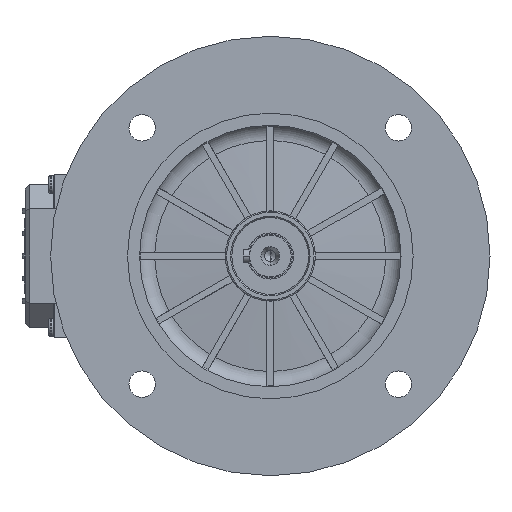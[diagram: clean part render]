
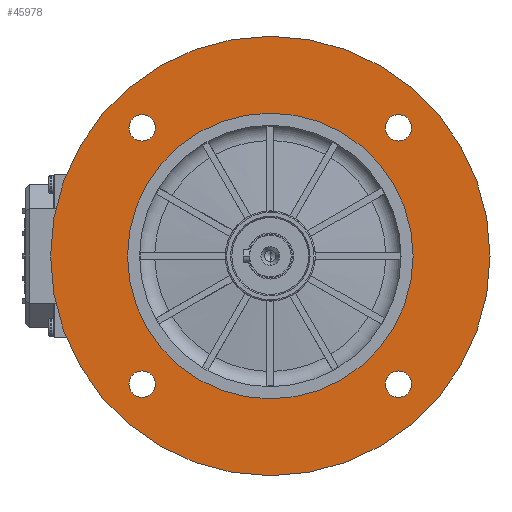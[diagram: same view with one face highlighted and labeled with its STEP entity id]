
A CAD part, left-side view. The second image highlights one B-rep face of the part: STEP entity #45978.
In plain terms, the highlighted planar face has unit normal (-1, 0, 0) as drawn and (0, -1, 0) by its records, which use the part's own axes.
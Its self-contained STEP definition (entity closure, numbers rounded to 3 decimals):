
#25 = DIRECTION ( 'NONE',  ( 0., 0., -1. ) ) ;
#837 = DIRECTION ( 'NONE',  ( 0., 1., 0. ) ) ;
#1151 = CARTESIAN_POINT ( 'NONE',  ( -58.336, 3.5, -64.336 ) ) ;
#1259 = AXIS2_PLACEMENT_3D ( 'NONE', #22783, #70670, #29673 ) ;
#1703 = CARTESIAN_POINT ( 'NONE',  ( 58.336, 3.5, -52.336 ) ) ;
#2065 = AXIS2_PLACEMENT_3D ( 'NONE', #36270, #84141, #43146 ) ;
#2133 = CARTESIAN_POINT ( 'NONE',  ( -58.336, 3.5, 58.336 ) ) ;
#4145 = CARTESIAN_POINT ( 'NONE',  ( 58.336, 3.5, 58.336 ) ) ;
#4805 = CARTESIAN_POINT ( 'NONE',  ( 0., 3.5, 0. ) ) ;
#4893 = FACE_BOUND ( 'NONE', #79310, .T. ) ;
#6450 = PLANE ( 'NONE',  #64745 ) ;
#6516 = EDGE_LOOP ( 'NONE', ( #60377, #44035 ) ) ;
#7221 = EDGE_CURVE ( 'NONE', #15991, #41112, #72976, .T. ) ;
#8645 = EDGE_LOOP ( 'NONE', ( #69086, #29573 ) ) ;
#9012 = DIRECTION ( 'NONE',  ( 0., 0., 1. ) ) ;
#9927 = AXIS2_PLACEMENT_3D ( 'NONE', #4145, #52040, #11019 ) ;
#11019 = DIRECTION ( 'NONE',  ( 0., 0., 1. ) ) ;
#11125 = VERTEX_POINT ( 'NONE', #13523 ) ;
#11329 = CARTESIAN_POINT ( 'NONE',  ( 58.336, 3.5, 64.336 ) ) ;
#11690 = DIRECTION ( 'NONE',  ( 0., 0., -1. ) ) ;
#12608 = VERTEX_POINT ( 'NONE', #63596 ) ;
#12787 = VERTEX_POINT ( 'NONE', #79387 ) ;
#13057 = AXIS2_PLACEMENT_3D ( 'NONE', #18122, #66004, #24958 ) ;
#13523 = CARTESIAN_POINT ( 'NONE',  ( 58.336, 3.5, -64.336 ) ) ;
#15235 = DIRECTION ( 'NONE',  ( 0., 1., 0. ) ) ;
#15991 = VERTEX_POINT ( 'NONE', #45939 ) ;
#17703 = EDGE_CURVE ( 'NONE', #83716, #81064, #25052, .T. ) ;
#18122 = CARTESIAN_POINT ( 'NONE',  ( -58.336, 3.5, -58.336 ) ) ;
#18291 = EDGE_CURVE ( 'NONE', #56812, #12608, #51866, .T. ) ;
#19368 = CARTESIAN_POINT ( 'NONE',  ( -58.336, 3.5, 52.336 ) ) ;
#19380 = CARTESIAN_POINT ( 'NONE',  ( 0., 3.5, 0. ) ) ;
#19775 = AXIS2_PLACEMENT_3D ( 'NONE', #19380, #67298, #26260 ) ;
#22270 = DIRECTION ( 'NONE',  ( 0., 1., 0. ) ) ;
#22783 = CARTESIAN_POINT ( 'NONE',  ( -58.336, 3.5, -58.336 ) ) ;
#23036 = FACE_BOUND ( 'NONE', #51831, .T. ) ;
#23441 = CIRCLE ( 'NONE', #19775, 100. ) ;
#23550 = EDGE_CURVE ( 'NONE', #28151, #84429, #69444, .T. ) ;
#24958 = DIRECTION ( 'NONE',  ( 0., 0., 1. ) ) ;
#25052 = CIRCLE ( 'NONE', #34774, 100. ) ;
#26067 = AXIS2_PLACEMENT_3D ( 'NONE', #56242, #15235, #63065 ) ;
#26260 = DIRECTION ( 'NONE',  ( 0., 0., -1. ) ) ;
#26465 = EDGE_CURVE ( 'NONE', #43685, #11125, #43209, .T. ) ;
#28151 = VERTEX_POINT ( 'NONE', #51448 ) ;
#28930 = ORIENTED_EDGE ( 'NONE', *, *, #57468, .T. ) ;
#29573 = ORIENTED_EDGE ( 'NONE', *, *, #7221, .F. ) ;
#29673 = DIRECTION ( 'NONE',  ( 0., 0., 1. ) ) ;
#30380 = EDGE_CURVE ( 'NONE', #41112, #15991, #57681, .T. ) ;
#30505 = CIRCLE ( 'NONE', #26067, 6. ) ;
#30782 = AXIS2_PLACEMENT_3D ( 'NONE', #41742, #837, #48692 ) ;
#33211 = EDGE_CURVE ( 'NONE', #81722, #12787, #85223, .T. ) ;
#33344 = AXIS2_PLACEMENT_3D ( 'NONE', #39690, #87574, #46600 ) ;
#33877 = DIRECTION ( 'NONE',  ( 0., 1., 0. ) ) ;
#34774 = AXIS2_PLACEMENT_3D ( 'NONE', #4805, #52682, #11690 ) ;
#35258 = ORIENTED_EDGE ( 'NONE', *, *, #70870, .T. ) ;
#36270 = CARTESIAN_POINT ( 'NONE',  ( -58.336, 3.5, 58.336 ) ) ;
#36811 = ORIENTED_EDGE ( 'NONE', *, *, #41408, .T. ) ;
#37517 = ORIENTED_EDGE ( 'NONE', *, *, #45277, .T. ) ;
#39690 = CARTESIAN_POINT ( 'NONE',  ( 0., 3.5, 0. ) ) ;
#40938 = DIRECTION ( 'NONE',  ( 0., -1., 0. ) ) ;
#41112 = VERTEX_POINT ( 'NONE', #62238 ) ;
#41243 = FACE_BOUND ( 'NONE', #54850, .T. ) ;
#41408 = EDGE_CURVE ( 'NONE', #81064, #83716, #23441, .T. ) ;
#41742 = CARTESIAN_POINT ( 'NONE',  ( 58.336, 3.5, -58.336 ) ) ;
#43146 = DIRECTION ( 'NONE',  ( 0., 0., 1. ) ) ;
#43209 = CIRCLE ( 'NONE', #30782, 6. ) ;
#43685 = VERTEX_POINT ( 'NONE', #1703 ) ;
#44035 = ORIENTED_EDGE ( 'NONE', *, *, #23550, .T. ) ;
#45277 = EDGE_CURVE ( 'NONE', #12787, #81722, #79874, .T. ) ;
#45939 = CARTESIAN_POINT ( 'NONE',  ( 0., 3.5, 65. ) ) ;
#45978 = ADVANCED_FACE ( 'NONE', ( #41243, #59462, #23036, #4893, #75523, #57376 ), #6450, .F. ) ;
#46600 = DIRECTION ( 'NONE',  ( 0., 0., -1. ) ) ;
#47548 = CIRCLE ( 'NONE', #67788, 6. ) ;
#48692 = DIRECTION ( 'NONE',  ( 0., 0., 1. ) ) ;
#50024 = DIRECTION ( 'NONE',  ( 0., 1., 0. ) ) ;
#51279 = CARTESIAN_POINT ( 'NONE',  ( 0., 3.5, -100. ) ) ;
#51448 = CARTESIAN_POINT ( 'NONE',  ( 58.336, 3.5, 52.336 ) ) ;
#51831 = EDGE_LOOP ( 'NONE', ( #28930, #54844 ) ) ;
#51866 = CIRCLE ( 'NONE', #13057, 6. ) ;
#52040 = DIRECTION ( 'NONE',  ( 0., 1., 0. ) ) ;
#52682 = DIRECTION ( 'NONE',  ( 0., -1., 0. ) ) ;
#53961 = ORIENTED_EDGE ( 'NONE', *, *, #33211, .T. ) ;
#54283 = ORIENTED_EDGE ( 'NONE', *, *, #26465, .T. ) ;
#54449 = AXIS2_PLACEMENT_3D ( 'NONE', #2133, #50024, #9012 ) ;
#54844 = ORIENTED_EDGE ( 'NONE', *, *, #18291, .T. ) ;
#54850 = EDGE_LOOP ( 'NONE', ( #54283, #35258 ) ) ;
#56242 = CARTESIAN_POINT ( 'NONE',  ( 58.336, 3.5, -58.336 ) ) ;
#56812 = VERTEX_POINT ( 'NONE', #1151 ) ;
#57376 = FACE_OUTER_BOUND ( 'NONE', #84733, .T. ) ;
#57468 = EDGE_CURVE ( 'NONE', #12608, #56812, #70722, .T. ) ;
#57681 = CIRCLE ( 'NONE', #79160, 65. ) ;
#59462 = FACE_BOUND ( 'NONE', #6516, .T. ) ;
#60377 = ORIENTED_EDGE ( 'NONE', *, *, #77217, .T. ) ;
#62238 = CARTESIAN_POINT ( 'NONE',  ( 0., 3.5, -65. ) ) ;
#63065 = DIRECTION ( 'NONE',  ( 0., 0., 1. ) ) ;
#63275 = CARTESIAN_POINT ( 'NONE',  ( 58.336, 3.5, 58.336 ) ) ;
#63596 = CARTESIAN_POINT ( 'NONE',  ( -58.336, 3.5, -52.336 ) ) ;
#64745 = AXIS2_PLACEMENT_3D ( 'NONE', #68027, #33877, #81769 ) ;
#66004 = DIRECTION ( 'NONE',  ( 0., 1., 0. ) ) ;
#67298 = DIRECTION ( 'NONE',  ( 0., -1., 0. ) ) ;
#67788 = AXIS2_PLACEMENT_3D ( 'NONE', #63275, #22270, #70165 ) ;
#68027 = CARTESIAN_POINT ( 'NONE',  ( 0., 3.5, 65. ) ) ;
#69086 = ORIENTED_EDGE ( 'NONE', *, *, #30380, .F. ) ;
#69444 = CIRCLE ( 'NONE', #9927, 6. ) ;
#70165 = DIRECTION ( 'NONE',  ( 0., 0., 1. ) ) ;
#70670 = DIRECTION ( 'NONE',  ( 0., 1., 0. ) ) ;
#70722 = CIRCLE ( 'NONE', #1259, 6. ) ;
#70870 = EDGE_CURVE ( 'NONE', #11125, #43685, #30505, .T. ) ;
#72976 = CIRCLE ( 'NONE', #33344, 65. ) ;
#73350 = CARTESIAN_POINT ( 'NONE',  ( 0., 3.5, 100. ) ) ;
#75523 = FACE_BOUND ( 'NONE', #8645, .T. ) ;
#77217 = EDGE_CURVE ( 'NONE', #84429, #28151, #47548, .T. ) ;
#78265 = ORIENTED_EDGE ( 'NONE', *, *, #17703, .T. ) ;
#79160 = AXIS2_PLACEMENT_3D ( 'NONE', #81925, #40938, #25 ) ;
#79310 = EDGE_LOOP ( 'NONE', ( #37517, #53961 ) ) ;
#79387 = CARTESIAN_POINT ( 'NONE',  ( -58.336, 3.5, 64.336 ) ) ;
#79874 = CIRCLE ( 'NONE', #54449, 6. ) ;
#81064 = VERTEX_POINT ( 'NONE', #73350 ) ;
#81722 = VERTEX_POINT ( 'NONE', #19368 ) ;
#81769 = DIRECTION ( 'NONE',  ( 0., 0., 1. ) ) ;
#81925 = CARTESIAN_POINT ( 'NONE',  ( 0., 3.5, 0. ) ) ;
#83716 = VERTEX_POINT ( 'NONE', #51279 ) ;
#84141 = DIRECTION ( 'NONE',  ( 0., 1., 0. ) ) ;
#84429 = VERTEX_POINT ( 'NONE', #11329 ) ;
#84733 = EDGE_LOOP ( 'NONE', ( #78265, #36811 ) ) ;
#85223 = CIRCLE ( 'NONE', #2065, 6. ) ;
#87574 = DIRECTION ( 'NONE',  ( 0., -1., 0. ) ) ;
